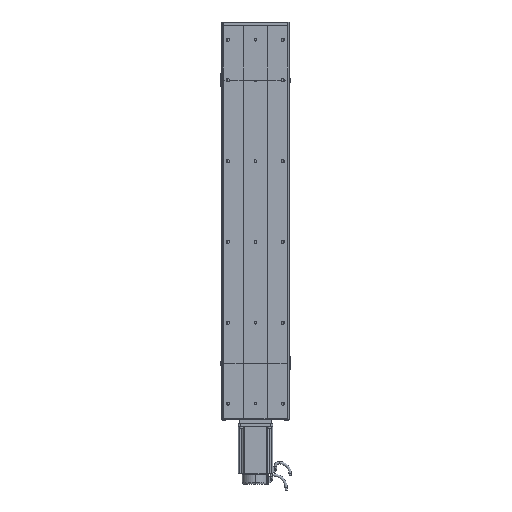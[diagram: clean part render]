
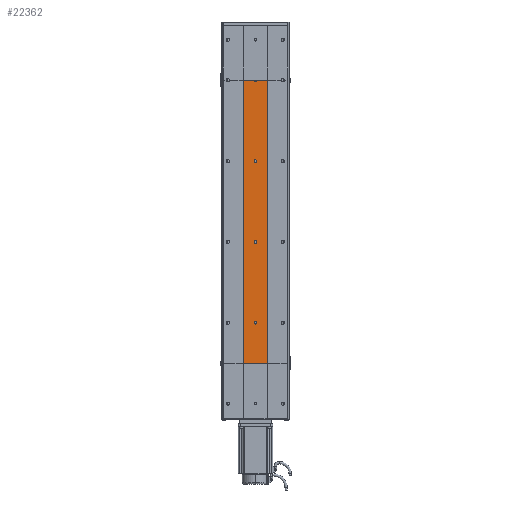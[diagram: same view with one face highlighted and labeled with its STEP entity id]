
A CAD part, front view. The second image highlights one B-rep face of the part: STEP entity #22362.
In plain terms, the highlighted planar face has unit normal (0, -1, 0).
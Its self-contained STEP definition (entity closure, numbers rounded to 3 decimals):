
#17501 = VERTEX_POINT ( 'NONE', #33458 ) ;
#17598 = VERTEX_POINT ( 'NONE', #33571 ) ;
#17610 = VERTEX_POINT ( 'NONE', #33612 ) ;
#17614 = EDGE_CURVE ( 'NONE', #17598, #17501, #33611, .T. ) ;
#17643 = VERTEX_POINT ( 'NONE', #33634 ) ;
#17670 = VERTEX_POINT ( 'NONE', #33667 ) ;
#17674 = EDGE_CURVE ( 'NONE', #17643, #17670, #33675, .T. ) ;
#17704 = VERTEX_POINT ( 'NONE', #33760 ) ;
#17707 = EDGE_CURVE ( 'NONE', #17610, #17704, #33765, .T. ) ;
#18168 = VERTEX_POINT ( 'NONE', #34291 ) ;
#18176 = VERTEX_POINT ( 'NONE', #34307 ) ;
#18281 = EDGE_CURVE ( 'NONE', #18176, #18168, #34396, .T. ) ;
#18916 = EDGE_CURVE ( 'NONE', #18969, #18964, #35490, .T. ) ;
#18964 = VERTEX_POINT ( 'NONE', #35686 ) ;
#18969 = VERTEX_POINT ( 'NONE', #35685 ) ;
#19066 = VERTEX_POINT ( 'NONE', #36044 ) ;
#19078 = EDGE_CURVE ( 'NONE', #19066, #17598, #36276, .T. ) ;
#21694 = VERTEX_POINT ( 'NONE', #40178 ) ;
#21698 = EDGE_CURVE ( 'NONE', #21694, #21727, #40199, .T. ) ;
#21727 = VERTEX_POINT ( 'NONE', #40235 ) ;
#22305 = ORIENTED_EDGE ( 'NONE', *, *, #22370, .F. ) ;
#22357 = ORIENTED_EDGE ( 'NONE', *, *, #22365, .F. ) ;
#22362 = ADVANCED_FACE ( 'NONE', ( #40799, #40811, #40822, #40762 ), #40802, .F. ) ;
#22365 = EDGE_CURVE ( 'NONE', #17670, #17643, #40797, .T. ) ;
#22368 = EDGE_LOOP ( 'NONE', ( #22372, #22465 ) ) ;
#22370 = EDGE_CURVE ( 'NONE', #17704, #17610, #40796, .T. ) ;
#22372 = ORIENTED_EDGE ( 'NONE', *, *, #22458, .F. ) ;
#22374 = ORIENTED_EDGE ( 'NONE', *, *, #17707, .F. ) ;
#22446 = ORIENTED_EDGE ( 'NONE', *, *, #17674, .F. ) ;
#22452 = ORIENTED_EDGE ( 'NONE', *, *, #19078, .T. ) ;
#22458 = EDGE_CURVE ( 'NONE', #18168, #18176, #40858, .T. ) ;
#22465 = ORIENTED_EDGE ( 'NONE', *, *, #18281, .F. ) ;
#22468 = ORIENTED_EDGE ( 'NONE', *, *, #17614, .T. ) ;
#22474 = ORIENTED_EDGE ( 'NONE', *, *, #22514, .T. ) ;
#22485 = EDGE_LOOP ( 'NONE', ( #22452, #22468, #22474, #22531, #22554, #22561, #22570 ) ) ;
#22487 = EDGE_LOOP ( 'NONE', ( #22305, #22374 ) ) ;
#22493 = EDGE_CURVE ( 'NONE', #21727, #18964, #40929, .T. ) ;
#22496 = EDGE_LOOP ( 'NONE', ( #22357, #22446 ) ) ;
#22514 = EDGE_CURVE ( 'NONE', #17501, #18969, #40976, .T. ) ;
#22531 = ORIENTED_EDGE ( 'NONE', *, *, #18916, .T. ) ;
#22554 = ORIENTED_EDGE ( 'NONE', *, *, #22493, .F. ) ;
#22555 = EDGE_CURVE ( 'NONE', #21694, #19066, #40995, .T. ) ;
#22561 = ORIENTED_EDGE ( 'NONE', *, *, #21698, .F. ) ;
#22570 = ORIENTED_EDGE ( 'NONE', *, *, #22555, .T. ) ;
#33458 = CARTESIAN_POINT ( 'NONE',  ( 0., -32.5, 697. ) ) ;
#33571 = CARTESIAN_POINT ( 'NONE',  ( 3., -32.5, 700. ) ) ;
#33607 = DIRECTION ( 'NONE',  ( 0., 0., 1. ) ) ;
#33608 = DIRECTION ( 'NONE',  ( 0., 1., 0. ) ) ;
#33611 = CIRCLE ( 'NONE', #33623, 3. ) ;
#33612 = CARTESIAN_POINT ( 'NONE',  ( 0., -32.5, 503. ) ) ;
#33616 = CARTESIAN_POINT ( 'NONE',  ( 0., -32.5, 700. ) ) ;
#33623 = AXIS2_PLACEMENT_3D ( 'NONE', #33616, #33608, #33607 ) ;
#33634 = CARTESIAN_POINT ( 'NONE',  ( 0., -32.5, 303. ) ) ;
#33667 = CARTESIAN_POINT ( 'NONE',  ( 0., -32.5, 297. ) ) ;
#33668 = AXIS2_PLACEMENT_3D ( 'NONE', #33690, #33731, #33730 ) ;
#33675 = CIRCLE ( 'NONE', #33668, 3. ) ;
#33690 = CARTESIAN_POINT ( 'NONE',  ( 0., -32.5, 300. ) ) ;
#33730 = DIRECTION ( 'NONE',  ( 0., 0., -1. ) ) ;
#33731 = DIRECTION ( 'NONE',  ( 0., -1., 0. ) ) ;
#33750 = DIRECTION ( 'NONE',  ( 0., 0., -1. ) ) ;
#33751 = DIRECTION ( 'NONE',  ( 0., -1., 0. ) ) ;
#33757 = CARTESIAN_POINT ( 'NONE',  ( 0., -32.5, 500. ) ) ;
#33760 = CARTESIAN_POINT ( 'NONE',  ( 0., -32.5, 497. ) ) ;
#33765 = CIRCLE ( 'NONE', #33768, 3. ) ;
#33768 = AXIS2_PLACEMENT_3D ( 'NONE', #33757, #33751, #33750 ) ;
#34291 = CARTESIAN_POINT ( 'NONE',  ( 0., -32.5, 97. ) ) ;
#34307 = CARTESIAN_POINT ( 'NONE',  ( 0., -32.5, 103. ) ) ;
#34386 = CARTESIAN_POINT ( 'NONE',  ( 0., -32.5, 100. ) ) ;
#34396 = CIRCLE ( 'NONE', #34408, 3. ) ;
#34408 = AXIS2_PLACEMENT_3D ( 'NONE', #34386, #34432, #34431 ) ;
#34431 = DIRECTION ( 'NONE',  ( 0., 0., -1. ) ) ;
#34432 = DIRECTION ( 'NONE',  ( 0., -1., 0. ) ) ;
#35480 = DIRECTION ( 'NONE',  ( -1., 0., 0. ) ) ;
#35481 = VECTOR ( 'NONE', #35480, 1000. ) ;
#35488 = CARTESIAN_POINT ( 'NONE',  ( -30., -32.5, 700. ) ) ;
#35490 = LINE ( 'NONE', #35488, #35481 ) ;
#35685 = CARTESIAN_POINT ( 'NONE',  ( -3., -32.5, 700. ) ) ;
#35686 = CARTESIAN_POINT ( 'NONE',  ( -30., -32.5, 700. ) ) ;
#36044 = CARTESIAN_POINT ( 'NONE',  ( 30., -32.5, 700. ) ) ;
#36271 = DIRECTION ( 'NONE',  ( -1., 0., 0. ) ) ;
#36272 = VECTOR ( 'NONE', #36271, 1000. ) ;
#36273 = CARTESIAN_POINT ( 'NONE',  ( -30., -32.5, 700. ) ) ;
#36276 = LINE ( 'NONE', #36273, #36272 ) ;
#39997 = DIRECTION ( 'NONE',  ( 0., 0., 1. ) ) ;
#40178 = CARTESIAN_POINT ( 'NONE',  ( 30., -32.5, 0. ) ) ;
#40193 = DIRECTION ( 'NONE',  ( -1., 0., 0. ) ) ;
#40194 = VECTOR ( 'NONE', #40193, 1000. ) ;
#40196 = CARTESIAN_POINT ( 'NONE',  ( -30., -32.5, 0. ) ) ;
#40199 = LINE ( 'NONE', #40196, #40194 ) ;
#40235 = CARTESIAN_POINT ( 'NONE',  ( -30., -32.5, 0. ) ) ;
#40762 = FACE_OUTER_BOUND ( 'NONE', #22485, .T. ) ;
#40791 = DIRECTION ( 'NONE',  ( 0., 0., 1. ) ) ;
#40792 = DIRECTION ( 'NONE',  ( 0., 1., 0. ) ) ;
#40793 = CARTESIAN_POINT ( 'NONE',  ( -30., -32.5, 0. ) ) ;
#40796 = CIRCLE ( 'NONE', #40852, 3. ) ;
#40797 = CIRCLE ( 'NONE', #40850, 3. ) ;
#40799 = FACE_BOUND ( 'NONE', #22487, .T. ) ;
#40801 = CARTESIAN_POINT ( 'NONE',  ( 0., -32.5, 500. ) ) ;
#40802 = PLANE ( 'NONE',  #40820 ) ;
#40805 = CARTESIAN_POINT ( 'NONE',  ( 0., -32.5, 300. ) ) ;
#40811 = FACE_BOUND ( 'NONE', #22496, .T. ) ;
#40820 = AXIS2_PLACEMENT_3D ( 'NONE', #40793, #40792, #40791 ) ;
#40822 = FACE_BOUND ( 'NONE', #22368, .T. ) ;
#40846 = DIRECTION ( 'NONE',  ( 0., 0., -1. ) ) ;
#40847 = DIRECTION ( 'NONE',  ( 0., -1., 0. ) ) ;
#40848 = DIRECTION ( 'NONE',  ( 0., 0., -1. ) ) ;
#40849 = DIRECTION ( 'NONE',  ( 0., -1., 0. ) ) ;
#40850 = AXIS2_PLACEMENT_3D ( 'NONE', #40805, #40849, #40848 ) ;
#40852 = AXIS2_PLACEMENT_3D ( 'NONE', #40801, #40847, #40846 ) ;
#40858 = CIRCLE ( 'NONE', #40912, 3. ) ;
#40904 = DIRECTION ( 'NONE',  ( 0., 0., -1. ) ) ;
#40905 = DIRECTION ( 'NONE',  ( 0., -1., 0. ) ) ;
#40912 = AXIS2_PLACEMENT_3D ( 'NONE', #40914, #40905, #40904 ) ;
#40914 = CARTESIAN_POINT ( 'NONE',  ( 0., -32.5, 100. ) ) ;
#40926 = DIRECTION ( 'NONE',  ( 0., 0., 1. ) ) ;
#40927 = VECTOR ( 'NONE', #40926, 1000. ) ;
#40928 = CARTESIAN_POINT ( 'NONE',  ( -30., -32.5, 0. ) ) ;
#40929 = LINE ( 'NONE', #40928, #40927 ) ;
#40968 = DIRECTION ( 'NONE',  ( 0., 0., 1. ) ) ;
#40969 = DIRECTION ( 'NONE',  ( 0., 1., 0. ) ) ;
#40970 = CARTESIAN_POINT ( 'NONE',  ( 0., -32.5, 700. ) ) ;
#40976 = CIRCLE ( 'NONE', #40979, 3. ) ;
#40979 = AXIS2_PLACEMENT_3D ( 'NONE', #40970, #40969, #40968 ) ;
#40993 = VECTOR ( 'NONE', #39997, 1000. ) ;
#40994 = CARTESIAN_POINT ( 'NONE',  ( 30., -32.5, 0. ) ) ;
#40995 = LINE ( 'NONE', #40994, #40993 ) ;
